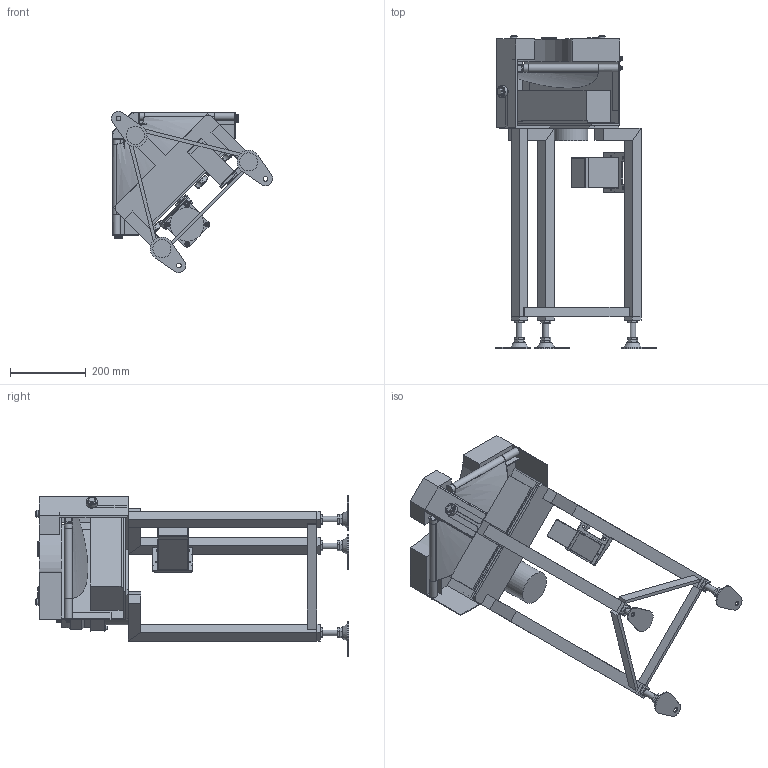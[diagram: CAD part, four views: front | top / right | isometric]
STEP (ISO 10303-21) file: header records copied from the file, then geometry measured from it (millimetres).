
FILE_DESCRIPTION (( 'STEP AP214' ), '1' );
FILE_NAME ('GBC90-HS100-IV-L.STEP', '2023-04-20T01:37:32', ( '' ), ( '' ), 'SwSTEP 2.0', 'SolidWorks 2017', '' );
FILE_SCHEMA (( 'AUTOMOTIVE_DESIGN' ));
Length unit declared in the file: millimetre
Products named in the file (1): GBC90-HS100-IV-L
Bounding box: 426.08 x 827.92 x 426.08 mm (x, y, z)
Volume: 10856579.1 mm3; surface area: 1593601.1 mm2
Topology: 70 solids, 70 shells, 1184 faces, 2652 edges, 1688 vertices
Faces by surface type: plane 763, cylinder 234, cone 97, bspline 59, torus 22, sphere 9
Full cylindrical faces by diameter (mm): 4.2 x4, 4.5 x2, 5 x4, 5.6 x2, 6 x21, 6.4 x12, 6.5 x8, 7 x3, 8 x3, 9 x2, 9.2 x1, 10 x16, 12 x2, 12.2 x2, 12.5 x15, 13 x7, 15 x4, 16 x10, 17 x1, 18 x2, 18.4 x1, 20 x6, 21 x1, 22.2 x1, 25 x1, 30 x2, 52 x1, 89 x1
Entity records: 52861 total; most frequent: CARTESIAN_POINT 14147, DIRECTION 4998, ORIENTED_EDGE 4760, EDGE_CURVE 2380, AXIS2_PLACEMENT_3D 1770, VERTEX_POINT 1628, EDGE_LOOP 1540, VECTOR 1458
